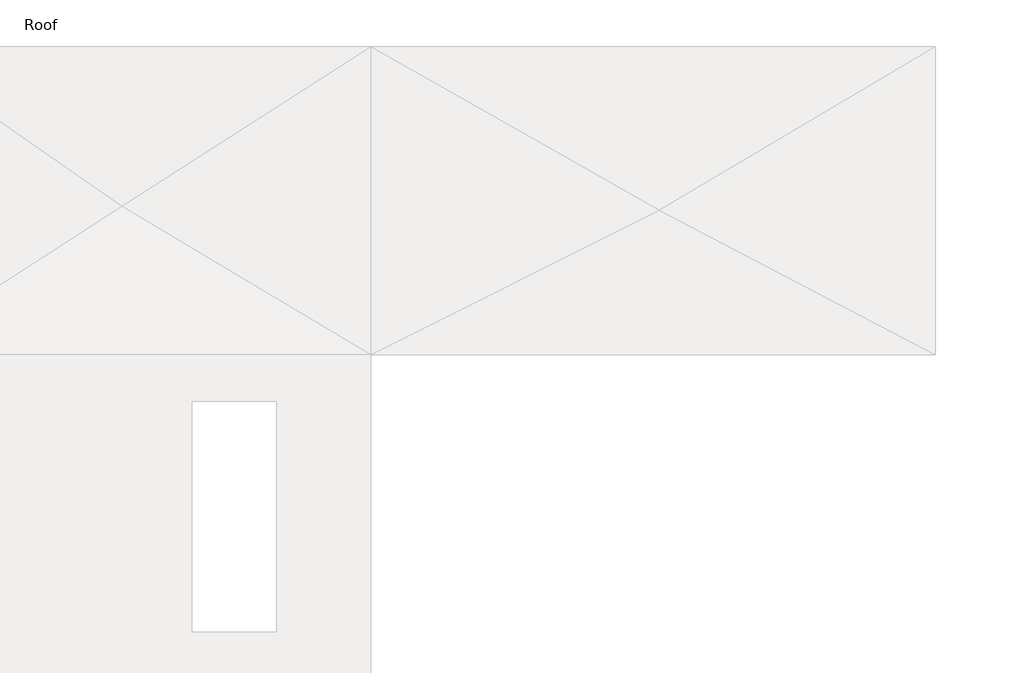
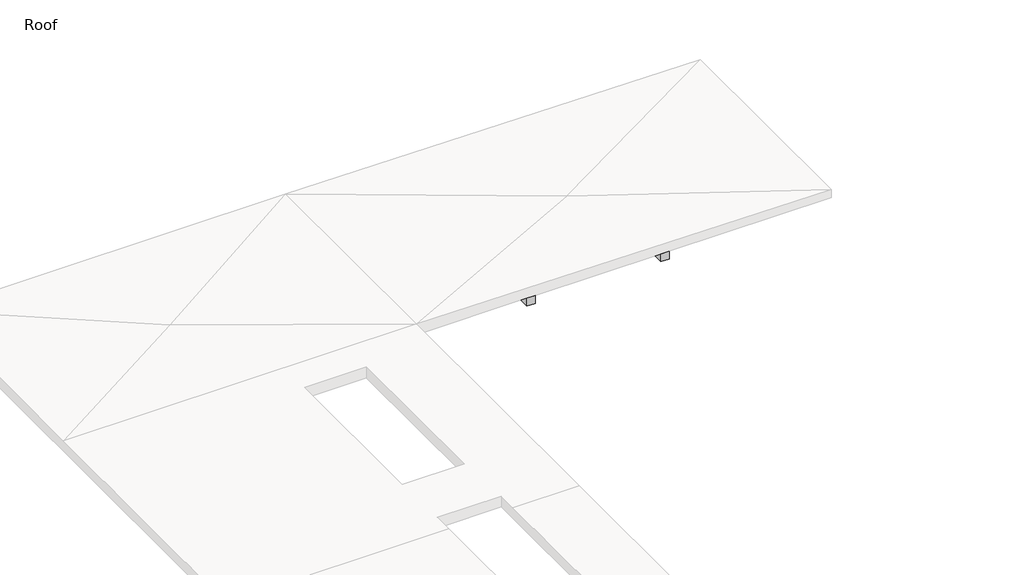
# One storey, part 7 of 7: 18 beams.
"""IFC4 building model written with IfcOpenShell, lengths in millimetres."""

from ifc_helpers import new_model, si_unit, point, frame, frame_2d, origin, place, context, project, spatial, polyline, circle_curve, trimmed, segment, composite_curve, outline, extrude, element, save
from ifc_brep_helpers import plane_surface, revolved_surface, advanced_brep

model = new_model("IFC4")

# Units and contexts
model_context = context("Model", 3, world=origin())
ifc_project = project(units=[si_unit("LENGTHUNIT", "METRE", prefix="MILLI")], contexts=[model_context])

# Site, building, storey
site = spatial("IfcSite", under=ifc_project)
building = spatial("IfcBuilding", under=site)
storey = spatial("IfcBuildingStorey", under=building, Name="Roof", Elevation=11400.0)

# Beams
placement = place(None, origin())
element("IfcBeam", 1, ObjectType="M_Concrete-Rectangular Beam : 400 x 800mm", at=placement, inside=storey, context=model_context, shape_type="AdvancedBrep", body=[
    advanced_brep(
    [(554.8005584, 29890.6609793, 10600.0), (554.8005584, 29793.7386199, 10600.0), (554.8005584, 22878.5386199, 10600.0), (554.8005584, 22781.6162606, 10600.0), (554.8005584, 22781.6162606, 11000.0), (554.8005584, 22878.5386199, 11000.0), (554.8005584, 29793.7386199, 11000.0), (554.8005584, 29890.6609793, 11000.0), (954.8005584, 29890.6609793, 10600.0), (954.8005584, 29793.7386199, 10600.0), (954.8005584, 22878.5386199, 10600.0), (954.8005584, 22781.6162606, 10600.0), (954.8005584, 29890.6609793, 11000.0), (954.8005584, 29793.7386199, 11000.0), (954.8005584, 22878.5386199, 11000.0), (954.8005584, 22781.6162606, 11000.0)],
    [
        (0, 1),
        (1, 2),
        (2, 3),
        (3, 4),
        (4, 5),
        (5, 6),
        (6, 7),
        (7, 0),
        (0, 8, circle_curve(frame((754.8005584, 29993.7386199, 10600.0), z_axis=(0.0, 0.0, 1.0), x_axis=(-1.0, 0.0, 0.0)), 225.0)),
        (8, 9),
        (9, 10),
        (10, 11),
        (11, 3, circle_curve(frame((754.8005584, 22678.5386199, 10600.0), z_axis=(0.0, 0.0, 1.0), x_axis=(-1.0, 0.0, 0.0)), 225.0)),
        (8, 12),
        (12, 13),
        (13, 14),
        (14, 15),
        (15, 11),
        (7, 12, circle_curve(frame((754.8005584, 29993.7386199, 11000.0), z_axis=(0.0, 0.0, 1.0), x_axis=(-1.0, 0.0, 0.0)), 225.0)),
        (15, 4, circle_curve(frame((754.8005584, 22678.5386199, 11000.0), z_axis=(0.0, 0.0, 1.0), x_axis=(-1.0, 0.0, 0.0)), 225.0)),
    ],
    [
        plane_surface(frame((554.8005584, 22916.2386199, 11400.0), z_axis=(-1.0, 0.0, 0.0), x_axis=(0.0, 1.0, 0.0))),
        plane_surface(frame((554.8005584, 22916.2386199, 10600.0), z_axis=(0.0, 0.0, -1.0), x_axis=(0.0, 1.0, 0.0))),
        plane_surface(frame((954.8005584, 22916.2386199, 10600.0), z_axis=(1.0, 0.0, 0.0), x_axis=(0.0, 1.0, 0.0))),
        revolved_surface(polyline([(529.8005584, 29993.7386199, 11000.0), (529.8005584, 29993.7386199, 10600.0)]), (754.8005584, 29993.7386199, 7600.0), (0.0, 0.0, 1.0)),
        revolved_surface(polyline([(529.8005584, 22678.5386199, 11000.0), (529.8005584, 22678.5386199, 10600.0)]), (754.8005584, 22678.5386199, 7600.0), (0.0, 0.0, 1.0)),
        plane_surface(frame((27511.8999097, 22114.0407562, 11000.0), z_axis=(0.0, 0.0, 1.0), x_axis=(0.0, -1.0, 0.0))),
    ],
    [
        (0, [[1, 2, 3, 4, 5, 6, 7, 8]]),
        (1, [[9, 10, 11, 12, 13, -3, -2, -1]]),
        (2, [[-12, -11, -10, 14, 15, 16, 17, 18]]),
        (3, [[-9, -8, 19, -14]]),
        (4, [[-13, -18, 20, -4]]),
        (5, [[-7, -6, -5, -20, -17, -16, -15, -19]]),
    ],
),
])
element("IfcBeam", 2, ObjectType="M_Concrete-Rectangular Beam : 400 x 800mm", at=placement, inside=storey, context=model_context, shape_type="AdvancedBrep", body=[
    advanced_brep(
    [(554.8005584, 22575.4609793, 10600.0), (554.8005584, 22478.5386199, 10600.0), (554.8005584, 19627.3386199, 10600.0), (554.8005584, 19530.4162606, 10600.0), (554.8005584, 19530.4162606, 11000.0), (554.8005584, 19627.3386199, 11000.0), (554.8005584, 22478.5386199, 11000.0), (554.8005584, 22575.4609793, 11000.0), (857.878199, 22478.5386199, 10600.0), (954.8005584, 22478.5386199, 10600.0), (954.8005584, 19627.3386199, 10600.0), (954.8005584, 19530.4162606, 10600.0), (954.8005584, 22478.5386199, 11000.0), (954.8005584, 19627.3386199, 11000.0), (954.8005584, 19530.4162606, 11000.0), (857.878199, 22478.5386199, 11000.0)],
    [
        (0, 1),
        (1, 2),
        (2, 3),
        (3, 4),
        (4, 5),
        (5, 6),
        (6, 7),
        (7, 0),
        (0, 8, circle_curve(frame((754.8005584, 22678.5386199, 10600.0), z_axis=(0.0, 0.0, 1.0), x_axis=(-1.0, 0.0, 0.0)), 225.0)),
        (8, 9),
        (9, 10),
        (10, 11),
        (11, 3, circle_curve(frame((754.8005584, 19427.3386199, 10600.0), z_axis=(0.0, 0.0, 1.0), x_axis=(-1.0, 0.0, 0.0)), 225.0)),
        (9, 12),
        (12, 13),
        (13, 14),
        (14, 11),
        (7, 15, circle_curve(frame((754.8005584, 22678.5386199, 11000.0), z_axis=(0.0, 0.0, 1.0), x_axis=(-1.0, 0.0, 0.0)), 225.0)),
        (15, 8),
        (15, 12),
        (14, 4, circle_curve(frame((754.8005584, 19427.3386199, 11000.0), z_axis=(0.0, 0.0, 1.0), x_axis=(-1.0, 0.0, 0.0)), 225.0)),
    ],
    [
        plane_surface(frame((554.8005584, 19665.0386199, 11000.0), z_axis=(-1.0, 0.0, 0.0), x_axis=(0.0, 0.0, -1.0))),
        plane_surface(frame((754.8005584, 19665.0386199, 10600.0), z_axis=(0.0, 0.0, -1.0), x_axis=(1.0, 0.0, 0.0))),
        plane_surface(frame((954.8005584, 19665.0386199, 11000.0), z_axis=(1.0, 0.0, 0.0), x_axis=(0.0, 0.0, 1.0))),
        revolved_surface(polyline([(529.8005584, 22678.5386199, 11000.0), (529.8005584, 22678.5386199, 10600.0)]), (754.8005584, 22678.5386199, 7600.0), (0.0, 0.0, 1.0)),
        plane_surface(frame((992.5005584, 22478.5386199, 11000.0), z_axis=(0.0, 1.0, 0.0), x_axis=(0.0, 0.0, 1.0))),
        revolved_surface(polyline([(529.8005584, 19427.3386199, 11000.0), (529.8005584, 19427.3386199, 10600.0)]), (754.8005584, 19427.3386199, 7600.0), (0.0, 0.0, 1.0)),
        plane_surface(frame((27511.8999097, 22114.0407562, 11000.0), z_axis=(0.0, 0.0, 1.0), x_axis=(0.0, -1.0, 0.0))),
    ],
    [
        (0, [[1, 2, 3, 4, 5, 6, 7, 8]]),
        (1, [[9, 10, 11, 12, 13, -3, -2, -1]]),
        (2, [[-12, -11, 14, 15, 16, 17]]),
        (3, [[-9, -8, 18, 19]]),
        (4, [[-10, -19, 20, -14]]),
        (5, [[-13, -17, 21, -4]]),
        (6, [[-7, -6, -5, -21, -16, -15, -20, -18]]),
    ],
),
])
element("IfcBeam", 3, ObjectType="M_Concrete-Rectangular Beam : 400 x 800mm", at=placement, inside=storey, context=model_context, shape_type="AdvancedBrep", body=[
    advanced_brep(
    [(6447.6005584, 29890.6609793, 10600.0), (6447.6005584, 29793.7386199, 10600.0), (6447.6005584, 22878.5386199, 10600.0), (6447.6005584, 22781.6162606, 10600.0), (6447.6005584, 22781.6162606, 11000.0), (6447.6005584, 22878.5386199, 11000.0), (6447.6005584, 29793.7386199, 11000.0), (6447.6005584, 29890.6609793, 11000.0), (6847.6005584, 29890.6609793, 10600.0), (6847.6005584, 29793.7386199, 10600.0), (6847.6005584, 22878.5386199, 10600.0), (6847.6005584, 22781.6162606, 10600.0), (6847.6005584, 29890.6609793, 11000.0), (6847.6005584, 29793.7386199, 11000.0), (6847.6005584, 22878.5386199, 11000.0), (6847.6005584, 22781.6162606, 11000.0)],
    [
        (0, 1),
        (1, 2),
        (2, 3),
        (3, 4),
        (4, 5),
        (5, 6),
        (6, 7),
        (7, 0),
        (0, 8, circle_curve(frame((6647.6005584, 29993.7386199, 10600.0), z_axis=(0.0, 0.0, 1.0), x_axis=(-1.0, 0.0, 0.0)), 225.0)),
        (8, 9),
        (9, 10),
        (10, 11),
        (11, 3, circle_curve(frame((6647.6005584, 22678.5386199, 10600.0), z_axis=(0.0, 0.0, 1.0), x_axis=(-1.0, 0.0, 0.0)), 225.0)),
        (8, 12),
        (12, 13),
        (13, 14),
        (14, 15),
        (15, 11),
        (7, 12, circle_curve(frame((6647.6005584, 29993.7386199, 11000.0), z_axis=(0.0, 0.0, 1.0), x_axis=(-1.0, 0.0, 0.0)), 225.0)),
        (15, 4, circle_curve(frame((6647.6005584, 22678.5386199, 11000.0), z_axis=(0.0, 0.0, 1.0), x_axis=(-1.0, 0.0, 0.0)), 225.0)),
    ],
    [
        plane_surface(frame((6447.6005584, 22916.2386199, 11400.0), z_axis=(-1.0, 0.0, 0.0), x_axis=(0.0, 1.0, 0.0))),
        plane_surface(frame((6447.6005584, 22916.2386199, 10600.0), z_axis=(0.0, 0.0, -1.0), x_axis=(0.0, 1.0, 0.0))),
        plane_surface(frame((6847.6005584, 22916.2386199, 10600.0), z_axis=(1.0, 0.0, 0.0), x_axis=(0.0, 1.0, 0.0))),
        revolved_surface(polyline([(6422.6005584, 29993.7386199, 11000.0), (6422.6005584, 29993.7386199, 10600.0)]), (6647.6005584, 29993.7386199, 7600.0), (0.0, 0.0, 1.0)),
        revolved_surface(polyline([(6422.6005584, 22678.5386199, 11000.0), (6422.6005584, 22678.5386199, 10600.0)]), (6647.6005584, 22678.5386199, 7600.0), (0.0, 0.0, 1.0)),
        plane_surface(frame((27511.8999097, 22114.0407562, 11000.0), z_axis=(0.0, 0.0, 1.0), x_axis=(0.0, -1.0, 0.0))),
    ],
    [
        (0, [[1, 2, 3, 4, 5, 6, 7, 8]]),
        (1, [[9, 10, 11, 12, 13, -3, -2, -1]]),
        (2, [[-12, -11, -10, 14, 15, 16, 17, 18]]),
        (3, [[-9, -8, 19, -14]]),
        (4, [[-13, -18, 20, -4]]),
        (5, [[-7, -6, -5, -20, -17, -16, -15, -19]]),
    ],
),
])
element("IfcBeam", 4, ObjectType="M_Concrete-Rectangular Beam : 400 x 800mm", at=placement, inside=storey, context=model_context, shape_type="AdvancedBrep", body=[
    advanced_brep(
    [(6447.6005584, 22575.4609793, 10600.0), (6447.6005584, 22478.5386199, 10600.0), (6447.6005584, 19627.3386199, 10600.0), (6447.6005584, 19530.4162606, 10600.0), (6447.6005584, 19530.4162606, 11000.0), (6447.6005584, 19627.3386199, 11000.0), (6447.6005584, 22478.5386199, 11000.0), (6447.6005584, 22575.4609793, 11000.0), (6750.678199, 22478.5386199, 10600.0), (6847.6005584, 22478.5386199, 10600.0), (6847.6005584, 19530.4162606, 10600.0), (6847.6005584, 22478.5386199, 11000.0), (6847.6005584, 19530.4162606, 11000.0), (6750.678199, 22478.5386199, 11000.0)],
    [
        (0, 1),
        (1, 2),
        (2, 3),
        (3, 4),
        (4, 5),
        (5, 6),
        (6, 7),
        (7, 0),
        (0, 8, circle_curve(frame((6647.6005584, 22678.5386199, 10600.0), z_axis=(0.0, 0.0, 1.0), x_axis=(-1.0, 0.0, 0.0)), 225.0)),
        (8, 9),
        (9, 10),
        (10, 3, circle_curve(frame((6647.6005584, 19427.3386199, 10600.0), z_axis=(0.0, 0.0, 1.0), x_axis=(-1.0, 0.0, 0.0)), 225.0)),
        (9, 11),
        (11, 12),
        (12, 10),
        (7, 13, circle_curve(frame((6647.6005584, 22678.5386199, 11000.0), z_axis=(0.0, 0.0, 1.0), x_axis=(-1.0, 0.0, 0.0)), 225.0)),
        (13, 8),
        (13, 11),
        (12, 4, circle_curve(frame((6647.6005584, 19427.3386199, 11000.0), z_axis=(0.0, 0.0, 1.0), x_axis=(-1.0, 0.0, 0.0)), 225.0)),
    ],
    [
        plane_surface(frame((6447.6005584, 19665.0386199, 11000.0), z_axis=(-1.0, 0.0, 0.0), x_axis=(0.0, 0.0, -1.0))),
        plane_surface(frame((6647.6005584, 19665.0386199, 10600.0), z_axis=(0.0, 0.0, -1.0), x_axis=(1.0, 0.0, 0.0))),
        plane_surface(frame((6847.6005584, 19665.0386199, 11000.0), z_axis=(1.0, 0.0, 0.0), x_axis=(0.0, 0.0, 1.0))),
        revolved_surface(polyline([(6422.6005584, 22678.5386199, 11000.0), (6422.6005584, 22678.5386199, 10600.0)]), (6647.6005584, 22678.5386199, 7600.0), (0.0, 0.0, 1.0)),
        plane_surface(frame((6885.3005584, 22478.5386199, 11000.0), z_axis=(0.0, 1.0, 0.0), x_axis=(0.0, 0.0, 1.0))),
        revolved_surface(polyline([(6422.6005584, 19427.3386199, 11000.0), (6422.6005584, 19427.3386199, 10600.0)]), (6647.6005584, 19427.3386199, 7600.0), (0.0, 0.0, 1.0)),
        plane_surface(frame((27511.8999097, 22114.0407562, 11000.0), z_axis=(0.0, 0.0, 1.0), x_axis=(0.0, -1.0, 0.0))),
    ],
    [
        (0, [[1, 2, 3, 4, 5, 6, 7, 8]]),
        (1, [[9, 10, 11, 12, -3, -2, -1]]),
        (2, [[-11, 13, 14, 15]]),
        (3, [[-9, -8, 16, 17]]),
        (4, [[-10, -17, 18, -13]]),
        (5, [[-12, -15, 19, -4]]),
        (6, [[-7, -6, -5, -19, -14, -18, -16]]),
    ],
),
])
element("IfcBeam", 5, ObjectType="M_Concrete-Rectangular Beam : 400 x 800mm", at=placement, inside=storey, context=model_context, shape_type="SweptSolid", body=[
    extrude(outline(composite_curve([segment(polyline([(6447.6005584, 19227.3386199), (6544.5229178, 19227.3386199)]), True, "CONTINUOUS"), segment(trimmed(circle_curve(frame_2d((6647.6005584, 19427.3386199)), 225.0), [point((6544.5229178, 19227.3386199))], [point((6847.6005584, 19324.2609793))], True, "CARTESIAN"), True, "CONTINUOUS"), segment(polyline([(6847.6005584, 19324.2609793), (6847.6005584, 13231.2162606)]), True, "CONTINUOUS"), segment(trimmed(circle_curve(frame_2d((6647.6005584, 13128.1386199)), 225.0), [point((6847.6005584, 13231.2162606))], [point((6447.6005584, 13231.2162606))], True, "CARTESIAN"), True, "CONTINUOUS"), segment(polyline([(6447.6005584, 13231.2162606), (6447.6005584, 19227.3386199)]), True, "CONTINUOUS")], self_intersect=False)), frame((0.0, 0.0, 10600.0), z_axis=(0.0, 0.0, 1.0), x_axis=(1.0, 0.0, 0.0)), (0.0, 0.0, 1.0), 400.0),
])
element("IfcBeam", 6, ObjectType="M_Concrete-Rectangular Beam : 400 x 800mm", at=placement, inside=storey, context=model_context, shape_type="AdvancedBrep", body=[
    advanced_brep(
    [(12746.8005584, 29890.6609793, 10600.0), (12746.8005584, 29793.7386199, 10600.0), (12746.8005584, 22878.5386199, 10600.0), (12746.8005584, 22781.6162606, 10600.0), (12746.8005584, 22781.6162606, 11000.0), (12746.8005584, 22878.5386199, 11000.0), (12746.8005584, 29793.7386199, 11000.0), (12746.8005584, 29890.6609793, 11000.0), (13146.8005584, 29890.6609793, 10600.0), (13146.8005584, 29793.7386199, 10600.0), (13146.8005584, 22878.5386199, 10600.0), (13146.8005584, 22781.6162606, 10600.0), (13146.8005584, 29890.6609793, 11000.0), (13146.8005584, 29793.7386199, 11000.0), (13146.8005584, 22878.5386199, 11000.0), (13146.8005584, 22781.6162606, 11000.0)],
    [
        (0, 1),
        (1, 2),
        (2, 3),
        (3, 4),
        (4, 5),
        (5, 6),
        (6, 7),
        (7, 0),
        (0, 8, circle_curve(frame((12946.8005584, 29993.7386199, 10600.0), z_axis=(0.0, 0.0, 1.0), x_axis=(-1.0, 0.0, 0.0)), 225.0)),
        (8, 9),
        (9, 10),
        (10, 11),
        (11, 3, circle_curve(frame((12946.8005584, 22678.5386199, 10600.0), z_axis=(0.0, 0.0, 1.0), x_axis=(-1.0, 0.0, 0.0)), 225.0)),
        (8, 12),
        (12, 13),
        (13, 14),
        (14, 15),
        (15, 11),
        (7, 12, circle_curve(frame((12946.8005584, 29993.7386199, 11000.0), z_axis=(0.0, 0.0, 1.0), x_axis=(-1.0, 0.0, 0.0)), 225.0)),
        (15, 4, circle_curve(frame((12946.8005584, 22678.5386199, 11000.0), z_axis=(0.0, 0.0, 1.0), x_axis=(-1.0, 0.0, 0.0)), 225.0)),
    ],
    [
        plane_surface(frame((12746.8005584, 22916.2386199, 11400.0), z_axis=(-1.0, 0.0, 0.0), x_axis=(0.0, 1.0, 0.0))),
        plane_surface(frame((12746.8005584, 22916.2386199, 10600.0), z_axis=(0.0, 0.0, -1.0), x_axis=(0.0, 1.0, 0.0))),
        plane_surface(frame((13146.8005584, 22916.2386199, 10600.0), z_axis=(1.0, 0.0, 0.0), x_axis=(0.0, 1.0, 0.0))),
        revolved_surface(polyline([(12721.8005584, 29993.7386199, 11000.0), (12721.8005584, 29993.7386199, 10600.0)]), (12946.8005584, 29993.7386199, 7600.0), (0.0, 0.0, 1.0)),
        revolved_surface(polyline([(12721.8005584, 22678.5386199, 11000.0), (12721.8005584, 22678.5386199, 10600.0)]), (12946.8005584, 22678.5386199, 7600.0), (0.0, 0.0, 1.0)),
        plane_surface(frame((27511.8999097, 22114.0407562, 11000.0), z_axis=(0.0, 0.0, 1.0), x_axis=(0.0, -1.0, 0.0))),
    ],
    [
        (0, [[1, 2, 3, 4, 5, 6, 7, 8]]),
        (1, [[9, 10, 11, 12, 13, -3, -2, -1]]),
        (2, [[-12, -11, -10, 14, 15, 16, 17, 18]]),
        (3, [[-9, -8, 19, -14]]),
        (4, [[-13, -18, 20, -4]]),
        (5, [[-7, -6, -5, -20, -17, -16, -15, -19]]),
    ],
),
])
element("IfcBeam", 7, ObjectType="M_Concrete-Rectangular Beam : 400 x 800mm", at=placement, inside=storey, context=model_context, shape_type="AdvancedBrep", body=[
    advanced_brep(
    [(19249.2005584, 29890.6609793, 10600.0), (19249.2005584, 29793.7386199, 10600.0), (19249.2005584, 22878.5386199, 10600.0), (19249.2005584, 22781.6162606, 10600.0), (19249.2005584, 22781.6162606, 11000.0), (19249.2005584, 22878.5386199, 11000.0), (19249.2005584, 29793.7386199, 11000.0), (19249.2005584, 29890.6609793, 11000.0), (19649.2005584, 29890.6609793, 10600.0), (19649.2005584, 29793.7386199, 10600.0), (19649.2005584, 22878.5386199, 10600.0), (19649.2005584, 22781.6162606, 10600.0), (19649.2005584, 29890.6609793, 11000.0), (19649.2005584, 29793.7386199, 11000.0), (19649.2005584, 22878.5386199, 11000.0), (19649.2005584, 22781.6162606, 11000.0)],
    [
        (0, 1),
        (1, 2),
        (2, 3),
        (3, 4),
        (4, 5),
        (5, 6),
        (6, 7),
        (7, 0),
        (0, 8, circle_curve(frame((19449.2005584, 29993.7386199, 10600.0), z_axis=(0.0, 0.0, 1.0), x_axis=(-1.0, 0.0, 0.0)), 225.0)),
        (8, 9),
        (9, 10),
        (10, 11),
        (11, 3, circle_curve(frame((19449.2005584, 22678.5386199, 10600.0), z_axis=(0.0, 0.0, 1.0), x_axis=(-1.0, 0.0, 0.0)), 225.0)),
        (8, 12),
        (12, 13),
        (13, 14),
        (14, 15),
        (15, 11),
        (7, 12, circle_curve(frame((19449.2005584, 29993.7386199, 11000.0), z_axis=(0.0, 0.0, 1.0), x_axis=(-1.0, 0.0, 0.0)), 225.0)),
        (15, 4, circle_curve(frame((19449.2005584, 22678.5386199, 11000.0), z_axis=(0.0, 0.0, 1.0), x_axis=(-1.0, 0.0, 0.0)), 225.0)),
    ],
    [
        plane_surface(frame((19249.2005584, 22916.2386199, 11400.0), z_axis=(-1.0, 0.0, 0.0), x_axis=(0.0, 1.0, 0.0))),
        plane_surface(frame((19249.2005584, 22916.2386199, 10600.0), z_axis=(0.0, 0.0, -1.0), x_axis=(0.0, 1.0, 0.0))),
        plane_surface(frame((19649.2005584, 22916.2386199, 10600.0), z_axis=(1.0, 0.0, 0.0), x_axis=(0.0, 1.0, 0.0))),
        revolved_surface(polyline([(19224.2005584, 29993.7386199, 11000.0), (19224.2005584, 29993.7386199, 10600.0)]), (19449.2005584, 29993.7386199, 7600.0), (0.0, 0.0, 1.0)),
        revolved_surface(polyline([(19224.2005584, 22678.5386199, 11000.0), (19224.2005584, 22678.5386199, 10600.0)]), (19449.2005584, 22678.5386199, 7600.0), (0.0, 0.0, 1.0)),
        plane_surface(frame((27511.8999097, 22114.0407562, 11000.0), z_axis=(0.0, 0.0, 1.0), x_axis=(0.0, -1.0, 0.0))),
    ],
    [
        (0, [[1, 2, 3, 4, 5, 6, 7, 8]]),
        (1, [[9, 10, 11, 12, 13, -3, -2, -1]]),
        (2, [[-12, -11, -10, 14, 15, 16, 17, 18]]),
        (3, [[-9, -8, 19, -14]]),
        (4, [[-13, -18, 20, -4]]),
        (5, [[-7, -6, -5, -20, -17, -16, -15, -19]]),
    ],
),
])
element("IfcBeam", 8, ObjectType="M_Concrete-Rectangular Beam : 400 x 800mm", at=placement, inside=storey, context=model_context, shape_type="SweptSolid", body=[
    extrude(outline(composite_curve([segment(polyline([(19649.2005584, 29793.7386199), (19649.2005584, 29890.6609793)]), True, "CONTINUOUS"), segment(trimmed(circle_curve(frame_2d((19449.2005584, 29993.7386199)), 225.0), [point((19649.2005584, 29890.6609793))], [point((19674.2005584, 29993.7386199))], True, "CARTESIAN"), True, "CONTINUOUS"), segment(trimmed(circle_curve(frame_2d((19449.2005584, 29993.7386199)), 225.0), [point((19674.2005584, 29993.7386199))], [point((19552.278199, 30193.7386199))], True, "CARTESIAN"), True, "CONTINUOUS"), segment(polyline([(19552.278199, 30193.7386199), (24268.8999097, 30193.7386199), (24268.8999097, 29793.7386199), (19649.2005584, 29793.7386199)]), True, "CONTINUOUS")], self_intersect=False)), frame((0.0, 0.0, 10600.0), z_axis=(0.0, 0.0, 1.0), x_axis=(1.0, 0.0, 0.0)), (0.0, 0.0, 1.0), 400.0),
])
element("IfcBeam", 9, ObjectType="M_Concrete-Rectangular Beam : 400 x 800mm", at=placement, inside=storey, context=model_context, shape_type="SweptSolid", body=[
    extrude(outline(composite_curve([segment(polyline([(13146.8005584, 29793.7386199), (13146.8005584, 29890.6609793)]), True, "CONTINUOUS"), segment(trimmed(circle_curve(frame_2d((12946.8005584, 29993.7386199)), 225.0), [point((13146.8005584, 29890.6609793))], [point((13171.8005584, 29993.7386199))], True, "CARTESIAN"), True, "CONTINUOUS"), segment(trimmed(circle_curve(frame_2d((12946.8005584, 29993.7386199)), 225.0), [point((13171.8005584, 29993.7386199))], [point((13049.878199, 30193.7386199))], True, "CARTESIAN"), True, "CONTINUOUS"), segment(polyline([(13049.878199, 30193.7386199), (19346.1229178, 30193.7386199)]), True, "CONTINUOUS"), segment(trimmed(circle_curve(frame_2d((19449.2005584, 29993.7386199)), 225.0), [point((19346.1229178, 30193.7386199))], [point((19224.2005584, 29993.7386199))], True, "CARTESIAN"), True, "CONTINUOUS"), segment(trimmed(circle_curve(frame_2d((19449.2005584, 29993.7386199)), 225.0), [point((19224.2005584, 29993.7386199))], [point((19249.2005584, 29890.6609793))], True, "CARTESIAN"), True, "CONTINUOUS"), segment(polyline([(19249.2005584, 29890.6609793), (19249.2005584, 29793.7386199), (13146.8005584, 29793.7386199)]), True, "CONTINUOUS")], self_intersect=False)), frame((0.0, 0.0, 10600.0), z_axis=(0.0, 0.0, 1.0), x_axis=(1.0, 0.0, 0.0)), (0.0, 0.0, 1.0), 400.0),
])
element("IfcBeam", 10, ObjectType="M_Concrete-Rectangular Beam : 400 x 800mm", at=placement, inside=storey, context=model_context, shape_type="SweptSolid", body=[
    extrude(outline(composite_curve([segment(polyline([(6847.6005584, 29793.7386199), (6847.6005584, 29890.6609793)]), True, "CONTINUOUS"), segment(trimmed(circle_curve(frame_2d((6647.6005584, 29993.7386199)), 225.0), [point((6847.6005584, 29890.6609793))], [point((6872.6005584, 29993.7386199))], True, "CARTESIAN"), True, "CONTINUOUS"), segment(trimmed(circle_curve(frame_2d((6647.6005584, 29993.7386199)), 225.0), [point((6872.6005584, 29993.7386199))], [point((6750.678199, 30193.7386199))], True, "CARTESIAN"), True, "CONTINUOUS"), segment(polyline([(6750.678199, 30193.7386199), (12843.7229178, 30193.7386199)]), True, "CONTINUOUS"), segment(trimmed(circle_curve(frame_2d((12946.8005584, 29993.7386199)), 225.0), [point((12843.7229178, 30193.7386199))], [point((12721.8005584, 29993.7386199))], True, "CARTESIAN"), True, "CONTINUOUS"), segment(trimmed(circle_curve(frame_2d((12946.8005584, 29993.7386199)), 225.0), [point((12721.8005584, 29993.7386199))], [point((12746.8005584, 29890.6609793))], True, "CARTESIAN"), True, "CONTINUOUS"), segment(polyline([(12746.8005584, 29890.6609793), (12746.8005584, 29793.7386199), (6847.6005584, 29793.7386199)]), True, "CONTINUOUS")], self_intersect=False)), frame((0.0, 0.0, 10600.0), z_axis=(0.0, 0.0, 1.0), x_axis=(1.0, 0.0, 0.0)), (0.0, 0.0, 1.0), 400.0),
])
element("IfcBeam", 11, ObjectType="M_Concrete-Rectangular Beam : 400 x 800mm", at=placement, inside=storey, context=model_context, shape_type="SweptSolid", body=[
    extrude(outline(composite_curve([segment(polyline([(954.8005584, 29793.7386199), (954.8005584, 29890.6609793)]), True, "CONTINUOUS"), segment(trimmed(circle_curve(frame_2d((754.8005584, 29993.7386199)), 225.0), [point((954.8005584, 29890.6609793))], [point((979.8005584, 29993.7386199))], True, "CARTESIAN"), True, "CONTINUOUS"), segment(trimmed(circle_curve(frame_2d((754.8005584, 29993.7386199)), 225.0), [point((979.8005584, 29993.7386199))], [point((857.878199, 30193.7386199))], True, "CARTESIAN"), True, "CONTINUOUS"), segment(polyline([(857.878199, 30193.7386199), (6544.5229178, 30193.7386199)]), True, "CONTINUOUS"), segment(trimmed(circle_curve(frame_2d((6647.6005584, 29993.7386199)), 225.0), [point((6544.5229178, 30193.7386199))], [point((6422.6005584, 29993.7386199))], True, "CARTESIAN"), True, "CONTINUOUS"), segment(trimmed(circle_curve(frame_2d((6647.6005584, 29993.7386199)), 225.0), [point((6422.6005584, 29993.7386199))], [point((6447.6005584, 29890.6609793))], True, "CARTESIAN"), True, "CONTINUOUS"), segment(polyline([(6447.6005584, 29890.6609793), (6447.6005584, 29793.7386199), (954.8005584, 29793.7386199)]), True, "CONTINUOUS")], self_intersect=False)), frame((0.0, 0.0, 10600.0), z_axis=(0.0, 0.0, 1.0), x_axis=(1.0, 0.0, 0.0)), (0.0, 0.0, 1.0), 400.0),
])
element("IfcBeam", 12, ObjectType="M_Concrete-Rectangular Beam : 400 x 800mm", at=placement, inside=storey, context=model_context, shape_type="AdvancedBrep", body=[
    advanced_brep(
    [(19649.2005584, 22878.5386199, 10600.0), (19649.2005584, 22878.5386199, 11000.0), (24268.8999097, 22878.5386199, 11000.0), (24268.8999097, 22878.5386199, 10600.0), (19649.2005584, 22781.6162606, 10600.0), (24268.8999097, 22478.5386199, 10600.0), (19649.2005584, 22478.5386199, 10600.0), (19552.278199, 22478.5386199, 10600.0), (19674.2005584, 22678.5386199, 10600.0), (19552.278199, 22478.5386199, 11000.0), (24268.8999097, 22478.5386199, 11000.0), (19649.2005584, 22478.5386199, 11000.0), (19649.2005584, 22781.6162606, 11000.0), (19674.2005584, 22678.5386199, 11000.0)],
    [
        (0, 1),
        (1, 2),
        (2, 3),
        (3, 0),
        (4, 0),
        (3, 5),
        (5, 6),
        (6, 7),
        (7, 8, circle_curve(frame((19449.2005584, 22678.5386199, 10600.0), z_axis=(0.0, 0.0, 1.0), x_axis=(-1.0, 0.0, 0.0)), 225.0)),
        (8, 4, circle_curve(frame((19449.2005584, 22678.5386199, 10600.0), z_axis=(0.0, 0.0, 1.0), x_axis=(-1.0, 0.0, 0.0)), 225.0)),
        (9, 7),
        (5, 10),
        (10, 11),
        (11, 9),
        (4, 12),
        (12, 1),
        (9, 13, circle_curve(frame((19449.2005584, 22678.5386199, 11000.0), z_axis=(0.0, 0.0, 1.0), x_axis=(-1.0, 0.0, 0.0)), 225.0)),
        (13, 8),
        (13, 12, circle_curve(frame((19449.2005584, 22678.5386199, 11000.0), z_axis=(0.0, 0.0, 1.0), x_axis=(-1.0, 0.0, 0.0)), 225.0)),
        (10, 2),
    ],
    [
        plane_surface(frame((19686.9005584, 22878.5386199, 11400.0), z_axis=(0.0, 1.0, 0.0), x_axis=(1.0, 0.0, 0.0))),
        plane_surface(frame((19686.9005584, 22878.5386199, 10600.0), z_axis=(0.0, 0.0, -1.0), x_axis=(1.0, 0.0, 0.0))),
        plane_surface(frame((19686.9005584, 22478.5386199, 10600.0), z_axis=(0.0, -1.0, 0.0), x_axis=(1.0, 0.0, 0.0))),
        plane_surface(frame((19649.2005584, 22916.2386199, 10600.0), z_axis=(-1.0, 0.0, 0.0), x_axis=(0.0, 1.0, 0.0))),
        revolved_surface(polyline([(19224.2005584, 22678.5386199, 11000.0), (19224.2005584, 22678.5386199, 10600.0)]), (19449.2005584, 22678.5386199, 7600.0), (0.0, 0.0, 1.0)),
        plane_surface(frame((27511.8999097, 22114.0407562, 11000.0), z_axis=(0.0, 0.0, 1.0), x_axis=(0.0, -1.0, 0.0))),
        plane_surface(frame((24268.8999097, 30792.0407562, 0.0), z_axis=(1.0, 0.0, 0.0), x_axis=(0.0, -1.0, 0.0))),
    ],
    [
        (0, [[1, 2, 3, 4]]),
        (1, [[5, -4, 6, 7, 8, 9, 10]]),
        (2, [[11, -8, -7, 12, 13, 14]]),
        (3, [[-5, 15, 16, -1]]),
        (4, [[-9, -11, 17, 18]]),
        (4, [[-10, -18, 19, -15]]),
        (5, [[-16, -19, -17, -14, -13, 20, -2]]),
        (6, [[-3, -20, -12, -6]]),
    ],
),
])
element("IfcBeam", 13, ObjectType="M_Concrete-Rectangular Beam : 400 x 800mm", at=placement, inside=storey, context=model_context, shape_type="AdvancedBrep", body=[
    advanced_brep(
    [(19249.2005584, 22878.5386199, 10600.0), (13146.8005584, 22878.5386199, 10600.0), (13146.8005584, 22878.5386199, 11000.0), (19249.2005584, 22878.5386199, 11000.0), (13146.8005584, 22781.6162606, 10600.0), (19249.2005584, 22781.6162606, 10600.0), (19224.2005584, 22678.5386199, 10600.0), (19346.1229178, 22478.5386199, 10600.0), (19249.2005584, 22478.5386199, 10600.0), (13146.8005584, 22478.5386199, 10600.0), (13049.878199, 22478.5386199, 10600.0), (13171.8005584, 22678.5386199, 10600.0), (19346.1229178, 22478.5386199, 11000.0), (19249.2005584, 22478.5386199, 11000.0), (13146.8005584, 22478.5386199, 11000.0), (13049.878199, 22478.5386199, 11000.0), (13146.8005584, 22781.6162606, 11000.0), (13171.8005584, 22678.5386199, 11000.0), (19249.2005584, 22781.6162606, 11000.0), (19224.2005584, 22678.5386199, 11000.0)],
    [
        (0, 1),
        (1, 2),
        (2, 3),
        (3, 0),
        (4, 1),
        (0, 5),
        (5, 6, circle_curve(frame((19449.2005584, 22678.5386199, 10600.0), z_axis=(0.0, 0.0, 1.0), x_axis=(-1.0, 0.0, 0.0)), 225.0)),
        (6, 7, circle_curve(frame((19449.2005584, 22678.5386199, 10600.0), z_axis=(0.0, 0.0, 1.0), x_axis=(-1.0, 0.0, 0.0)), 225.0)),
        (7, 8),
        (8, 9),
        (9, 10),
        (10, 11, circle_curve(frame((12946.8005584, 22678.5386199, 10600.0), z_axis=(0.0, 0.0, 1.0), x_axis=(-1.0, 0.0, 0.0)), 225.0)),
        (11, 4, circle_curve(frame((12946.8005584, 22678.5386199, 10600.0), z_axis=(0.0, 0.0, 1.0), x_axis=(-1.0, 0.0, 0.0)), 225.0)),
        (7, 12),
        (12, 13),
        (13, 14),
        (14, 15),
        (15, 10),
        (4, 16),
        (16, 2),
        (15, 17, circle_curve(frame((12946.8005584, 22678.5386199, 11000.0), z_axis=(0.0, 0.0, 1.0), x_axis=(-1.0, 0.0, 0.0)), 225.0)),
        (17, 11),
        (17, 16, circle_curve(frame((12946.8005584, 22678.5386199, 11000.0), z_axis=(0.0, 0.0, 1.0), x_axis=(-1.0, 0.0, 0.0)), 225.0)),
        (3, 18),
        (18, 5),
        (6, 19),
        (19, 12, circle_curve(frame((19449.2005584, 22678.5386199, 11000.0), z_axis=(0.0, 0.0, 1.0), x_axis=(-1.0, 0.0, 0.0)), 225.0)),
        (18, 19, circle_curve(frame((19449.2005584, 22678.5386199, 11000.0), z_axis=(0.0, 0.0, 1.0), x_axis=(-1.0, 0.0, 0.0)), 225.0)),
    ],
    [
        plane_surface(frame((13184.5005584, 22878.5386199, 11000.0), z_axis=(0.0, 1.0, 0.0), x_axis=(0.0, 0.0, -1.0))),
        plane_surface(frame((13184.5005584, 22678.5386199, 10600.0), z_axis=(0.0, 0.0, -1.0), x_axis=(0.0, -1.0, 0.0))),
        plane_surface(frame((13184.5005584, 22478.5386199, 11000.0), z_axis=(0.0, -1.0, 0.0), x_axis=(0.0, 0.0, 1.0))),
        plane_surface(frame((13146.8005584, 22916.2386199, 10600.0), z_axis=(-1.0, 0.0, 0.0), x_axis=(0.0, 1.0, 0.0))),
        revolved_surface(polyline([(12721.8005584, 22678.5386199, 11000.0), (12721.8005584, 22678.5386199, 10600.0)]), (12946.8005584, 22678.5386199, 7600.0), (0.0, 0.0, 1.0)),
        plane_surface(frame((19249.2005584, 22916.2386199, 11400.0), z_axis=(1.0, 0.0, 0.0), x_axis=(0.0, 1.0, 0.0))),
        revolved_surface(polyline([(19224.2005584, 22678.5386199, 11000.0), (19224.2005584, 22678.5386199, 10600.0)]), (19449.2005584, 22678.5386199, 7600.0), (0.0, 0.0, 1.0)),
        plane_surface(frame((27511.8999097, 22114.0407562, 11000.0), z_axis=(0.0, 0.0, 1.0), x_axis=(0.0, -1.0, 0.0))),
    ],
    [
        (0, [[1, 2, 3, 4]]),
        (1, [[5, -1, 6, 7, 8, 9, 10, 11, 12, 13]]),
        (2, [[-11, -10, -9, 14, 15, 16, 17, 18]]),
        (3, [[-5, 19, 20, -2]]),
        (4, [[-12, -18, 21, 22]]),
        (4, [[-13, -22, 23, -19]]),
        (5, [[-6, -4, 24, 25]]),
        (6, [[-8, 26, 27, -14]]),
        (6, [[-7, -25, 28, -26]]),
        (7, [[-3, -20, -23, -21, -17, -16, -15, -27, -28, -24]]),
    ],
),
])
element("IfcBeam", 14, ObjectType="M_Concrete-Rectangular Beam : 400 x 800mm", at=placement, inside=storey, context=model_context, shape_type="AdvancedBrep", body=[
    advanced_brep(
    [(12746.8005584, 22878.5386199, 10600.0), (6847.6005584, 22878.5386199, 10600.0), (6847.6005584, 22878.5386199, 11000.0), (12746.8005584, 22878.5386199, 11000.0), (6750.678199, 22478.5386199, 10600.0), (6872.6005584, 22678.5386199, 10600.0), (6847.6005584, 22781.6162606, 10600.0), (12746.8005584, 22781.6162606, 10600.0), (12721.8005584, 22678.5386199, 10600.0), (12843.7229178, 22478.5386199, 10600.0), (12746.8005584, 22478.5386199, 10600.0), (6847.6005584, 22478.5386199, 10600.0), (12843.7229178, 22478.5386199, 11000.0), (12746.8005584, 22478.5386199, 11000.0), (6847.6005584, 22478.5386199, 11000.0), (6750.678199, 22478.5386199, 11000.0), (6872.6005584, 22678.5386199, 11000.0), (6847.6005584, 22781.6162606, 11000.0), (12721.8005584, 22678.5386199, 11000.0), (12746.8005584, 22781.6162606, 11000.0)],
    [
        (0, 1),
        (1, 2),
        (2, 3),
        (3, 0),
        (4, 5, circle_curve(frame((6647.6005584, 22678.5386199, 10600.0), z_axis=(0.0, 0.0, 1.0), x_axis=(-1.0, 0.0, 0.0)), 225.0)),
        (5, 6, circle_curve(frame((6647.6005584, 22678.5386199, 10600.0), z_axis=(0.0, 0.0, 1.0), x_axis=(-1.0, 0.0, 0.0)), 225.0)),
        (6, 1),
        (0, 7),
        (7, 8, circle_curve(frame((12946.8005584, 22678.5386199, 10600.0), z_axis=(0.0, 0.0, 1.0), x_axis=(-1.0, 0.0, 0.0)), 225.0)),
        (8, 9, circle_curve(frame((12946.8005584, 22678.5386199, 10600.0), z_axis=(0.0, 0.0, 1.0), x_axis=(-1.0, 0.0, 0.0)), 225.0)),
        (9, 10),
        (10, 11),
        (11, 4),
        (9, 12),
        (12, 13),
        (13, 14),
        (14, 15),
        (15, 4),
        (15, 16, circle_curve(frame((6647.6005584, 22678.5386199, 11000.0), z_axis=(0.0, 0.0, 1.0), x_axis=(-1.0, 0.0, 0.0)), 225.0)),
        (16, 5),
        (16, 17, circle_curve(frame((6647.6005584, 22678.5386199, 11000.0), z_axis=(0.0, 0.0, 1.0), x_axis=(-1.0, 0.0, 0.0)), 225.0)),
        (17, 6),
        (17, 2),
        (8, 18),
        (18, 12, circle_curve(frame((12946.8005584, 22678.5386199, 11000.0), z_axis=(0.0, 0.0, 1.0), x_axis=(-1.0, 0.0, 0.0)), 225.0)),
        (7, 19),
        (19, 18, circle_curve(frame((12946.8005584, 22678.5386199, 11000.0), z_axis=(0.0, 0.0, 1.0), x_axis=(-1.0, 0.0, 0.0)), 225.0)),
        (3, 19),
    ],
    [
        plane_surface(frame((6885.3005584, 22878.5386199, 11000.0), z_axis=(0.0, 1.0, 0.0), x_axis=(0.0, 0.0, -1.0))),
        plane_surface(frame((6885.3005584, 22678.5386199, 10600.0), z_axis=(0.0, 0.0, -1.0), x_axis=(0.0, -1.0, 0.0))),
        plane_surface(frame((6885.3005584, 22478.5386199, 11000.0), z_axis=(0.0, -1.0, 0.0), x_axis=(0.0, 0.0, 1.0))),
        revolved_surface(polyline([(6422.6005584, 22678.5386199, 11000.0), (6422.6005584, 22678.5386199, 10600.0)]), (6647.6005584, 22678.5386199, 7600.0), (0.0, 0.0, 1.0)),
        plane_surface(frame((6847.6005584, 22916.2386199, 10600.0), z_axis=(-1.0, 0.0, 0.0), x_axis=(0.0, 1.0, 0.0))),
        revolved_surface(polyline([(12721.8005584, 22678.5386199, 11000.0), (12721.8005584, 22678.5386199, 10600.0)]), (12946.8005584, 22678.5386199, 7600.0), (0.0, 0.0, 1.0)),
        plane_surface(frame((12746.8005584, 22916.2386199, 11400.0), z_axis=(1.0, 0.0, 0.0), x_axis=(0.0, 1.0, 0.0))),
        plane_surface(frame((27511.8999097, 22114.0407562, 11000.0), z_axis=(0.0, 0.0, 1.0), x_axis=(0.0, -1.0, 0.0))),
    ],
    [
        (0, [[1, 2, 3, 4]]),
        (1, [[5, 6, 7, -1, 8, 9, 10, 11, 12, 13]]),
        (2, [[-13, -12, -11, 14, 15, 16, 17, 18]]),
        (3, [[-5, -18, 19, 20]]),
        (3, [[-6, -20, 21, 22]]),
        (4, [[-7, -22, 23, -2]]),
        (5, [[-10, 24, 25, -14]]),
        (5, [[-9, 26, 27, -24]]),
        (6, [[-8, -4, 28, -26]]),
        (7, [[-3, -23, -21, -19, -17, -16, -15, -25, -27, -28]]),
    ],
),
])
element("IfcBeam", 15, ObjectType="M_Concrete-Rectangular Beam : 400 x 800mm", at=placement, inside=storey, context=model_context, shape_type="AdvancedBrep", body=[
    advanced_brep(
    [(6447.6005584, 22878.5386199, 10600.0), (954.8005584, 22878.5386199, 10600.0), (954.8005584, 22878.5386199, 11000.0), (6447.6005584, 22878.5386199, 11000.0), (857.878199, 22478.5386199, 10600.0), (979.8005584, 22678.5386199, 10600.0), (954.8005584, 22781.6162606, 10600.0), (6447.6005584, 22781.6162606, 10600.0), (6422.6005584, 22678.5386199, 10600.0), (6447.6005584, 22575.4609793, 10600.0), (6447.6005584, 22478.5386199, 10600.0), (954.8005584, 22478.5386199, 10600.0), (6447.6005584, 22478.5386199, 11000.0), (954.8005584, 22478.5386199, 11000.0), (857.878199, 22478.5386199, 11000.0), (979.8005584, 22678.5386199, 11000.0), (954.8005584, 22781.6162606, 11000.0), (6422.6005584, 22678.5386199, 11000.0), (6447.6005584, 22575.4609793, 11000.0), (6447.6005584, 22781.6162606, 11000.0)],
    [
        (0, 1),
        (1, 2),
        (2, 3),
        (3, 0),
        (4, 5, circle_curve(frame((754.8005584, 22678.5386199, 10600.0), z_axis=(0.0, 0.0, 1.0), x_axis=(-1.0, 0.0, 0.0)), 225.0)),
        (5, 6, circle_curve(frame((754.8005584, 22678.5386199, 10600.0), z_axis=(0.0, 0.0, 1.0), x_axis=(-1.0, 0.0, 0.0)), 225.0)),
        (6, 1),
        (0, 7),
        (7, 8, circle_curve(frame((6647.6005584, 22678.5386199, 10600.0), z_axis=(0.0, 0.0, 1.0), x_axis=(-1.0, 0.0, 0.0)), 225.0)),
        (8, 9, circle_curve(frame((6647.6005584, 22678.5386199, 10600.0), z_axis=(0.0, 0.0, 1.0), x_axis=(-1.0, 0.0, 0.0)), 225.0)),
        (9, 10),
        (10, 11),
        (11, 4),
        (10, 12),
        (12, 13),
        (13, 14),
        (14, 4),
        (14, 15, circle_curve(frame((754.8005584, 22678.5386199, 11000.0), z_axis=(0.0, 0.0, 1.0), x_axis=(-1.0, 0.0, 0.0)), 225.0)),
        (15, 5),
        (15, 16, circle_curve(frame((754.8005584, 22678.5386199, 11000.0), z_axis=(0.0, 0.0, 1.0), x_axis=(-1.0, 0.0, 0.0)), 225.0)),
        (16, 6),
        (16, 2),
        (8, 17),
        (17, 18, circle_curve(frame((6647.6005584, 22678.5386199, 11000.0), z_axis=(0.0, 0.0, 1.0), x_axis=(-1.0, 0.0, 0.0)), 225.0)),
        (18, 9),
        (7, 19),
        (19, 17, circle_curve(frame((6647.6005584, 22678.5386199, 11000.0), z_axis=(0.0, 0.0, 1.0), x_axis=(-1.0, 0.0, 0.0)), 225.0)),
        (18, 12),
        (3, 19),
    ],
    [
        plane_surface(frame((992.5005584, 22878.5386199, 11000.0), z_axis=(0.0, 1.0, 0.0), x_axis=(0.0, 0.0, -1.0))),
        plane_surface(frame((992.5005584, 22678.5386199, 10600.0), z_axis=(0.0, 0.0, -1.0), x_axis=(0.0, -1.0, 0.0))),
        plane_surface(frame((992.5005584, 22478.5386199, 11000.0), z_axis=(0.0, -1.0, 0.0), x_axis=(0.0, 0.0, 1.0))),
        revolved_surface(polyline([(529.8005584, 22678.5386199, 11000.0), (529.8005584, 22678.5386199, 10600.0)]), (754.8005584, 22678.5386199, 7600.0), (0.0, 0.0, 1.0)),
        plane_surface(frame((954.8005584, 22916.2386199, 10600.0), z_axis=(-1.0, 0.0, 0.0), x_axis=(0.0, 1.0, 0.0))),
        revolved_surface(polyline([(6422.6005584, 22678.5386199, 11000.0), (6422.6005584, 22678.5386199, 10600.0)]), (6647.6005584, 22678.5386199, 7600.0), (0.0, 0.0, 1.0)),
        plane_surface(frame((6447.6005584, 19665.0386199, 11000.0), z_axis=(1.0, 0.0, 0.0), x_axis=(0.0, 0.0, -1.0))),
        plane_surface(frame((6447.6005584, 22916.2386199, 11400.0), z_axis=(1.0, 0.0, 0.0), x_axis=(0.0, 1.0, 0.0))),
        plane_surface(frame((27511.8999097, 22114.0407562, 11000.0), z_axis=(0.0, 0.0, 1.0), x_axis=(0.0, -1.0, 0.0))),
    ],
    [
        (0, [[1, 2, 3, 4]]),
        (1, [[5, 6, 7, -1, 8, 9, 10, 11, 12, 13]]),
        (2, [[-13, -12, 14, 15, 16, 17]]),
        (3, [[-5, -17, 18, 19]]),
        (3, [[-6, -19, 20, 21]]),
        (4, [[-7, -21, 22, -2]]),
        (5, [[-10, 23, 24, 25]]),
        (5, [[-9, 26, 27, -23]]),
        (6, [[-11, -25, 28, -14]]),
        (7, [[-8, -4, 29, -26]]),
        (8, [[-3, -22, -20, -18, -16, -15, -28, -24, -27, -29]]),
    ],
),
])
element("IfcBeam", 16, ObjectType="M_Concrete-Rectangular Beam : 400 x 800mm", at=placement, inside=storey, context=model_context, shape_type="AdvancedBrep", body=[
    advanced_brep(
    [(6447.6005584, 19627.3386199, 10600.0), (954.8005584, 19627.3386199, 10600.0), (954.8005584, 19627.3386199, 11000.0), (6447.6005584, 19627.3386199, 11000.0), (857.878199, 19227.3386199, 10600.0), (979.8005584, 19427.3386199, 10600.0), (954.8005584, 19530.4162606, 10600.0), (6447.6005584, 19530.4162606, 10600.0), (6422.6005584, 19427.3386199, 10600.0), (6544.5229178, 19227.3386199, 10600.0), (6447.6005584, 19227.3386199, 10600.0), (954.8005584, 19227.3386199, 10600.0), (6544.5229178, 19227.3386199, 11000.0), (6447.6005584, 19227.3386199, 11000.0), (954.8005584, 19227.3386199, 11000.0), (857.878199, 19227.3386199, 11000.0), (979.8005584, 19427.3386199, 11000.0), (954.8005584, 19530.4162606, 11000.0), (6422.6005584, 19427.3386199, 11000.0), (6447.6005584, 19530.4162606, 11000.0)],
    [
        (0, 1),
        (1, 2),
        (2, 3),
        (3, 0),
        (4, 5, circle_curve(frame((754.8005584, 19427.3386199, 10600.0), z_axis=(0.0, 0.0, 1.0), x_axis=(-1.0, 0.0, 0.0)), 225.0)),
        (5, 6, circle_curve(frame((754.8005584, 19427.3386199, 10600.0), z_axis=(0.0, 0.0, 1.0), x_axis=(-1.0, 0.0, 0.0)), 225.0)),
        (6, 1),
        (0, 7),
        (7, 8, circle_curve(frame((6647.6005584, 19427.3386199, 10600.0), z_axis=(0.0, 0.0, 1.0), x_axis=(-1.0, 0.0, 0.0)), 225.0)),
        (8, 9, circle_curve(frame((6647.6005584, 19427.3386199, 10600.0), z_axis=(0.0, 0.0, 1.0), x_axis=(-1.0, 0.0, 0.0)), 225.0)),
        (9, 10),
        (10, 11),
        (11, 4),
        (9, 12),
        (12, 13),
        (13, 14),
        (14, 15),
        (15, 4),
        (15, 16, circle_curve(frame((754.8005584, 19427.3386199, 11000.0), z_axis=(0.0, 0.0, 1.0), x_axis=(-1.0, 0.0, 0.0)), 225.0)),
        (16, 5),
        (16, 17, circle_curve(frame((754.8005584, 19427.3386199, 11000.0), z_axis=(0.0, 0.0, 1.0), x_axis=(-1.0, 0.0, 0.0)), 225.0)),
        (17, 6),
        (8, 18),
        (18, 12, circle_curve(frame((6647.6005584, 19427.3386199, 11000.0), z_axis=(0.0, 0.0, 1.0), x_axis=(-1.0, 0.0, 0.0)), 225.0)),
        (7, 19),
        (19, 18, circle_curve(frame((6647.6005584, 19427.3386199, 11000.0), z_axis=(0.0, 0.0, 1.0), x_axis=(-1.0, 0.0, 0.0)), 225.0)),
        (17, 2),
        (3, 19),
    ],
    [
        plane_surface(frame((992.5005584, 19627.3386199, 11000.0), z_axis=(0.0, 1.0, 0.0), x_axis=(0.0, 0.0, -1.0))),
        plane_surface(frame((992.5005584, 19427.3386199, 10600.0), z_axis=(0.0, 0.0, -1.0), x_axis=(0.0, -1.0, 0.0))),
        plane_surface(frame((992.5005584, 19227.3386199, 11000.0), z_axis=(0.0, -1.0, 0.0), x_axis=(0.0, 0.0, 1.0))),
        revolved_surface(polyline([(529.8005584, 19427.3386199, 11000.0), (529.8005584, 19427.3386199, 10600.0)]), (754.8005584, 19427.3386199, 7600.0), (0.0, 0.0, 1.0)),
        revolved_surface(polyline([(6422.6005584, 19427.3386199, 11000.0), (6422.6005584, 19427.3386199, 10600.0)]), (6647.6005584, 19427.3386199, 7600.0), (0.0, 0.0, 1.0)),
        plane_surface(frame((954.8005584, 19665.0386199, 11000.0), z_axis=(-1.0, 0.0, 0.0), x_axis=(0.0, 0.0, 1.0))),
        plane_surface(frame((6447.6005584, 19665.0386199, 11000.0), z_axis=(1.0, 0.0, 0.0), x_axis=(0.0, 0.0, -1.0))),
        plane_surface(frame((27511.8999097, 22114.0407562, 11000.0), z_axis=(0.0, 0.0, 1.0), x_axis=(0.0, -1.0, 0.0))),
    ],
    [
        (0, [[1, 2, 3, 4]]),
        (1, [[5, 6, 7, -1, 8, 9, 10, 11, 12, 13]]),
        (2, [[-13, -12, -11, 14, 15, 16, 17, 18]]),
        (3, [[-5, -18, 19, 20]]),
        (3, [[-6, -20, 21, 22]]),
        (4, [[-10, 23, 24, -14]]),
        (4, [[-9, 25, 26, -23]]),
        (5, [[-7, -22, 27, -2]]),
        (6, [[-8, -4, 28, -25]]),
        (7, [[-3, -27, -21, -19, -17, -16, -15, -24, -26, -28]]),
    ],
),
])
element("IfcBeam", 17, ObjectType="M_Concrete-Rectangular Beam : 400 x 800mm", at=placement, inside=storey, context=model_context, shape_type="SweptSolid", body=[
    extrude(outline(composite_curve([segment(polyline([(13146.8005584, 19514.0407562), (12746.8005584, 19514.0407562), (12746.8005584, 22478.5386199), (12843.7229178, 22478.5386199)]), True, "CONTINUOUS"), segment(trimmed(circle_curve(frame_2d((12946.8005584, 22678.5386199)), 225.0), [point((12843.7229178, 22478.5386199))], [point((13049.878199, 22478.5386199))], True, "CARTESIAN"), True, "CONTINUOUS"), segment(polyline([(13049.878199, 22478.5386199), (13146.8005584, 22478.5386199), (13146.8005584, 19514.0407562)]), True, "CONTINUOUS")], self_intersect=False)), frame((0.0, 0.0, 10600.0), z_axis=(0.0, 0.0, 1.0), x_axis=(1.0, 0.0, 0.0)), (0.0, 0.0, 1.0), 400.0),
])
element("IfcBeam", 18, ObjectType="M_Concrete-Rectangular Beam : 400 x 800mm", at=placement, inside=storey, context=model_context, shape_type="SweptSolid", body=[
    extrude(outline(composite_curve([segment(polyline([(19649.2005584, 19514.0407562), (19249.2005584, 19514.0407562), (19249.2005584, 22478.5386199), (19346.1229178, 22478.5386199)]), True, "CONTINUOUS"), segment(trimmed(circle_curve(frame_2d((19449.2005584, 22678.5386199)), 225.0), [point((19346.1229178, 22478.5386199))], [point((19552.278199, 22478.5386199))], True, "CARTESIAN"), True, "CONTINUOUS"), segment(polyline([(19552.278199, 22478.5386199), (19649.2005584, 22478.5386199), (19649.2005584, 19514.0407562)]), True, "CONTINUOUS")], self_intersect=False)), frame((0.0, 0.0, 10600.0), z_axis=(0.0, 0.0, 1.0), x_axis=(1.0, 0.0, 0.0)), (0.0, 0.0, 1.0), 400.0),
])

save(model, "model.ifc")
